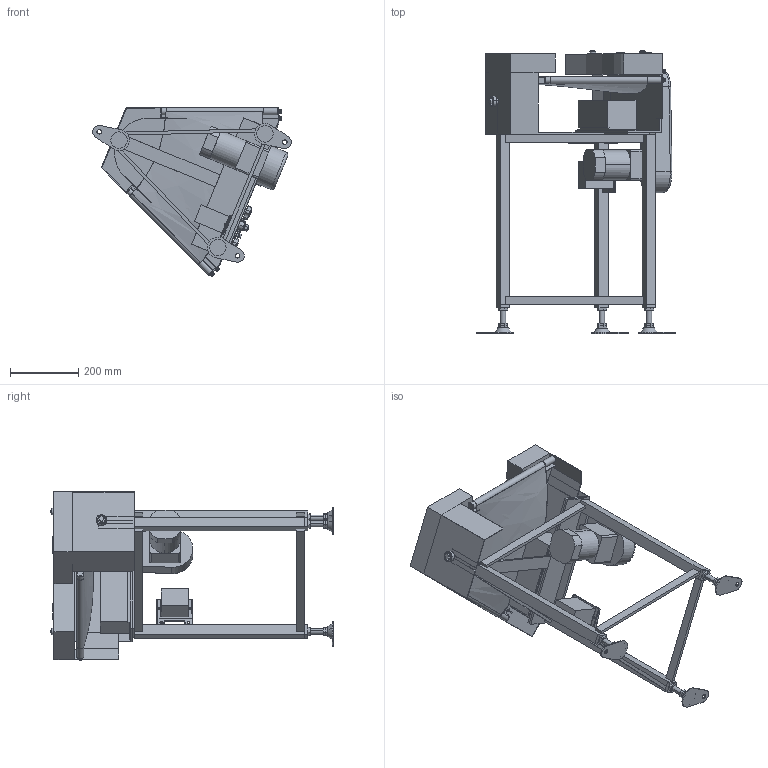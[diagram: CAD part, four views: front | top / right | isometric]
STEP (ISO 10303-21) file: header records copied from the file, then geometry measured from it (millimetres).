
FILE_DESCRIPTION( (''), '2;1');
FILE_NAME ('GBC-UD-309-200-45°-R-K-60.stp','2025-01-31T08:31:53',(''),(''),'spGate 20.6.2 (****-****-****-****)','','');
FILE_SCHEMA (('AUTOMOTIVE_DESIGN'));
Length unit declared in the file: millimetre
Products named in the file (59): NewModel; TEMP_X_T-prt0; TEMP_X_T-prt1; TEMP_X_T-prt2; TEMP_X_T-prt3; TEMP_X_T-prt4; TEMP_X_T-prt5; TEMP_X_T-prt6; TEMP_X_T-prt7; TEMP_X_T-prt8; TEMP_X_T-prt9; TEMP_X_T-prt10; TEMP_X_T-prt11; TEMP_X_T-prt12; TEMP_X_T-prt13; TEMP_X_T-prt14; TEMP_X_T-prt15; TEMP_X_T-prt16; TEMP_X_T-prt17; TEMP_X_T-prt18; TEMP_X_T-prt19; TEMP_X_T-prt20; TEMP_X_T-prt21; TEMP_X_T-prt22; TEMP_X_T-prt23; TEMP_X_T-prt24; TEMP_X_T-prt25; TEMP_X_T-prt26; TEMP_X_T-prt27; TEMP_X_T-prt28; TEMP_X_T-prt29; TEMP_X_T-prt30; TEMP_X_T-prt31; TEMP_X_T-prt32; TEMP_X_T-prt33; TEMP_X_T-prt34; TEMP_X_T-prt35; TEMP_X_T-prt36; TEMP_X_T-prt37; TEMP_X_T-prt38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
Assembly tree (58 placements, depth 2):
  NewModel
    TEMP_X_T-prt0
    TEMP_X_T-prt1
    TEMP_X_T-prt2
    TEMP_X_T-prt3
    TEMP_X_T-prt4
    TEMP_X_T-prt5
    TEMP_X_T-prt6
    TEMP_X_T-prt7
    TEMP_X_T-prt8
    TEMP_X_T-prt9
    TEMP_X_T-prt10
    TEMP_X_T-prt11
    TEMP_X_T-prt12
    TEMP_X_T-prt13
    TEMP_X_T-prt14
    TEMP_X_T-prt15
    TEMP_X_T-prt16
    TEMP_X_T-prt17
    TEMP_X_T-prt18
    TEMP_X_T-prt19
    TEMP_X_T-prt20
    TEMP_X_T-prt21
    TEMP_X_T-prt22
    TEMP_X_T-prt23
    TEMP_X_T-prt24
    TEMP_X_T-prt25
    TEMP_X_T-prt26
    TEMP_X_T-prt27
    TEMP_X_T-prt28
    TEMP_X_T-prt29
    TEMP_X_T-prt30
    TEMP_X_T-prt31
    TEMP_X_T-prt32
    TEMP_X_T-prt33
    TEMP_X_T-prt34
    TEMP_X_T-prt35
    TEMP_X_T-prt36
    TEMP_X_T-prt37
    TEMP_X_T-prt38
    TEMP_X_T-prt39
    TEMP_X_T-prt40
    TEMP_X_T-prt41
    TEMP_X_T-prt42
    TEMP_X_T-prt43
    TEMP_X_T-prt44
    TEMP_X_T-prt45
    TEMP_X_T-prt46
    TEMP_X_T-prt47
    TEMP_X_T-prt48
    TEMP_X_T-prt49
    TEMP_X_T-prt50
    TEMP_X_T-prt51
    TEMP_X_T-prt52
    TEMP_X_T-prt53
    TEMP_X_T-prt54
    TEMP_X_T-prt55
    TEMP_X_T-prt56
    TEMP_X_T-prt57
Bounding box: 581.26 x 827.92 x 493.85 mm (x, y, z)
Volume: 14337787.1 mm3; surface area: 2323765.3 mm2
Topology: 58 solids, 58 shells, 1116 faces, 2578 edges, 1649 vertices
Faces by surface type: plane 678, cylinder 292, bspline 142, sphere 4
Entity records: 58901 total; most frequent: CARTESIAN_POINT 11344, ORIENTED_EDGE 5140, DIRECTION 5032, COLOUR_RGB 3744, PRESENTATION_STYLE_ASSIGNMENT 3744, STYLED_ITEM 3744, EDGE_CURVE 2570, DRAUGHTING_PRE_DEFINED_CURVE_FONT 2570
